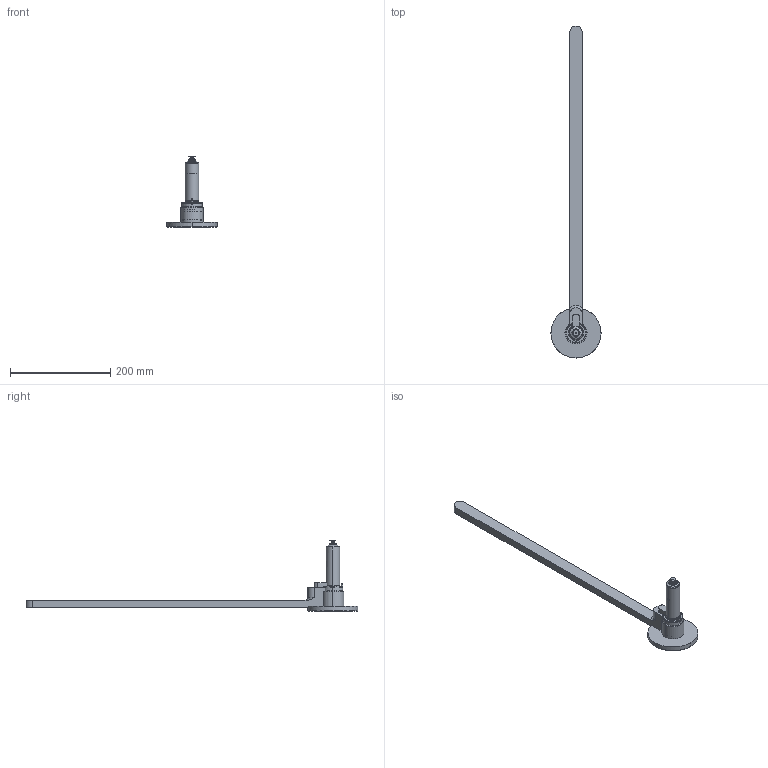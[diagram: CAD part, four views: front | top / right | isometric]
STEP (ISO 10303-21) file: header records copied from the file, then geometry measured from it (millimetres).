
FILE_DESCRIPTION (( 'STEP AP214' ), '1' );
FILE_NAME ('09S-03-090-TTW.STEP', '2023-01-04T09:01:09', ( '' ), ( '' ), 'SwSTEP 2.0', 'SolidWorks 2018', '' );
FILE_SCHEMA (( 'AUTOMOTIVE_DESIGN' ));
Length unit declared in the file: millimetre
Products named in the file (3): nozzle_09S-03-090-TTW; cutout_09S-03-090-TTW; 09S-03-090-TTW
Assembly tree (2 placements, depth 2):
  09S-03-090-TTW
    nozzle_09S-03-090-TTW
    cutout_09S-03-090-TTW
Bounding box: 100 x 662.5 x 140 mm (x, y, z)
Volume: 413850.7 mm3; surface area: 114687.3 mm2
Topology: 1 solids, 6 shells, 562 faces, 1479 edges, 924 vertices
Faces by surface type: cylinder 232, plane 147, cone 107, torus 66, bspline 5, sphere 5
Entity records: 22143 total; most frequent: CARTESIAN_POINT 7885, DIRECTION 3102, ORIENTED_EDGE 2934, EDGE_CURVE 1468, AXIS2_PLACEMENT_3D 1269, VERTEX_POINT 924, CIRCLE 706, EDGE_LOOP 595
